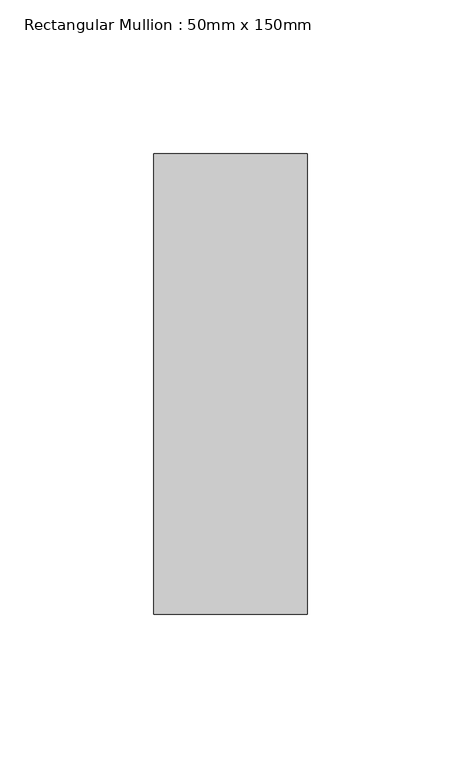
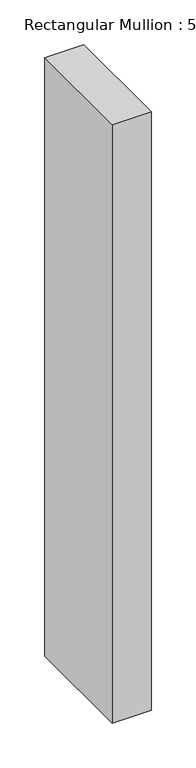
"""IFC4 building model written with IfcOpenShell, lengths in millimetres: member geometry, Rectangular Mullion : 50mm x 150mm."""

from ifc_helpers import new_model, si_unit, frame, origin, place, context, project, spatial, polyline, outline, extrude, source, transform, mapped, element, save


def rectangular_mullion_50mm_x_150mm_a5e1a8f4(model_context):
    return source(origin(), model_context, "Body", "SweptSolid", [
        extrude(outline(polyline([(25.0, 75.0), (25.0, -75.0), (-25.0, -75.0), (-25.0, 75.0), (25.0, 75.0)])), frame((0.0, 0.0, -813.7581581), z_axis=(0.0, 0.0, 1.0), x_axis=(1.0, 0.0, 0.0)), (0.0, 0.0, 1.0), 813.7581581),
    ])


if __name__ == "__main__":
    model = new_model("IFC4")
    model_context = context("Model", 3, world=origin())
    ifc_project = project(units=[si_unit("LENGTHUNIT", "METRE", prefix="MILLI")], contexts=[model_context])
    site = spatial("IfcSite", under=ifc_project)
    building = spatial("IfcBuilding", under=site)
    placement = place(None, origin())
    rectangular_mullion_50mm_x_150mm_shape = rectangular_mullion_50mm_x_150mm_a5e1a8f4(model_context)
    element("IfcMember", 1, ObjectType="Rectangular Mullion : 50mm x 150mm", at=placement, inside=building, context=model_context, shape_type="MappedRepresentation", body=[
        mapped(rectangular_mullion_50mm_x_150mm_shape, transform((0.0, 0.0, 0.0), x_axis=(1.0, 0.0, 0.0), y_axis=(0.0, 1.0, 0.0), z_axis=(0.0, 0.0, 1.0))),
    ])
    save(model, "model.ifc")
